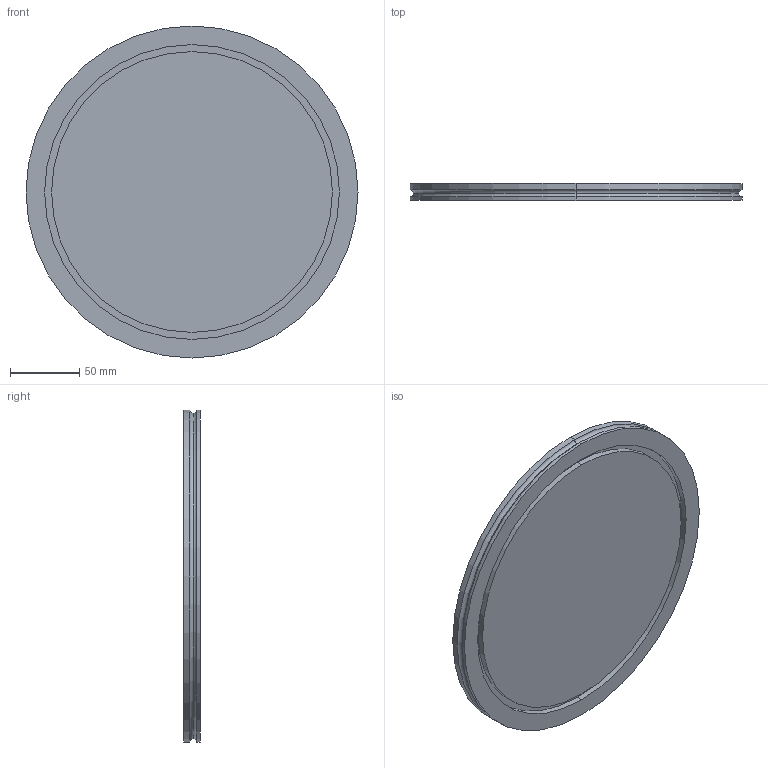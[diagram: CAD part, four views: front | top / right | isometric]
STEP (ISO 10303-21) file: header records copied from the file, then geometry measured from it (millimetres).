
FILE_DESCRIPTION (( 'STEP AP214' ), '1' );
FILE_NAME ('W4BF200.STEP', '2019-03-27T09:04:17', ( '' ), ( '' ), 'SwSTEP 2.0', 'SolidWorks 2018', '' );
FILE_SCHEMA (( 'AUTOMOTIVE_DESIGN' ));
Length unit declared in the file: millimetre
Products named in the file (1): W4BF200
Bounding box: 240 x 12 x 240 mm (x, y, z)
Volume: 512711.7 mm3; surface area: 110378 mm2
Topology: 1 solids, 1 shells, 22 faces, 42 edges, 26 vertices
Faces by surface type: cylinder 12, plane 6, torus 4
Entity records: 602 total; most frequent: DIRECTION 118, CARTESIAN_POINT 91, ORIENTED_EDGE 84, AXIS2_PLACEMENT_3D 53, EDGE_CURVE 42, CIRCLE 30, EDGE_LOOP 26, VERTEX_POINT 26
